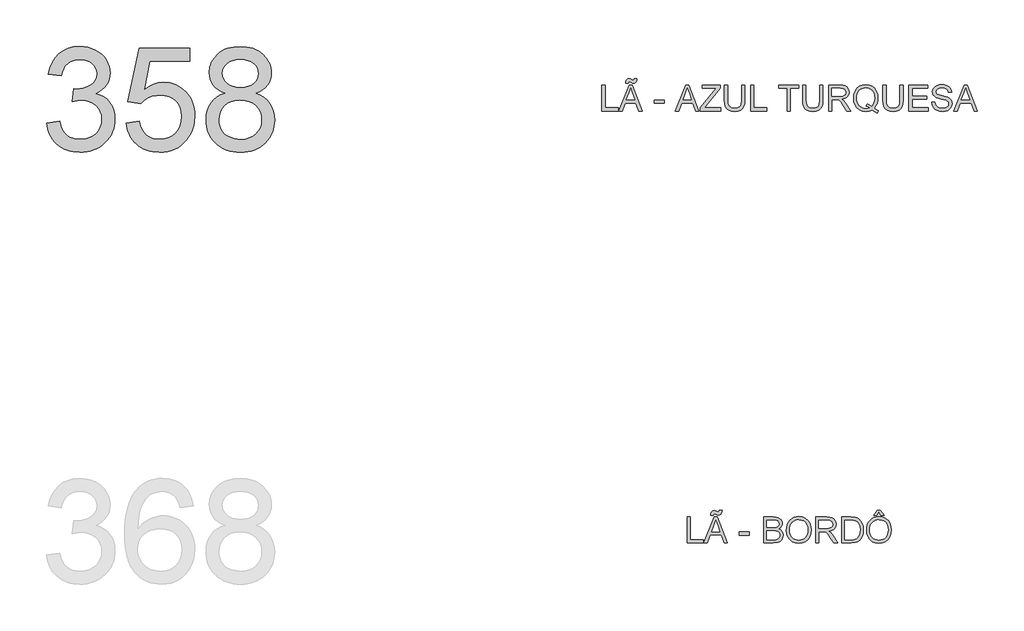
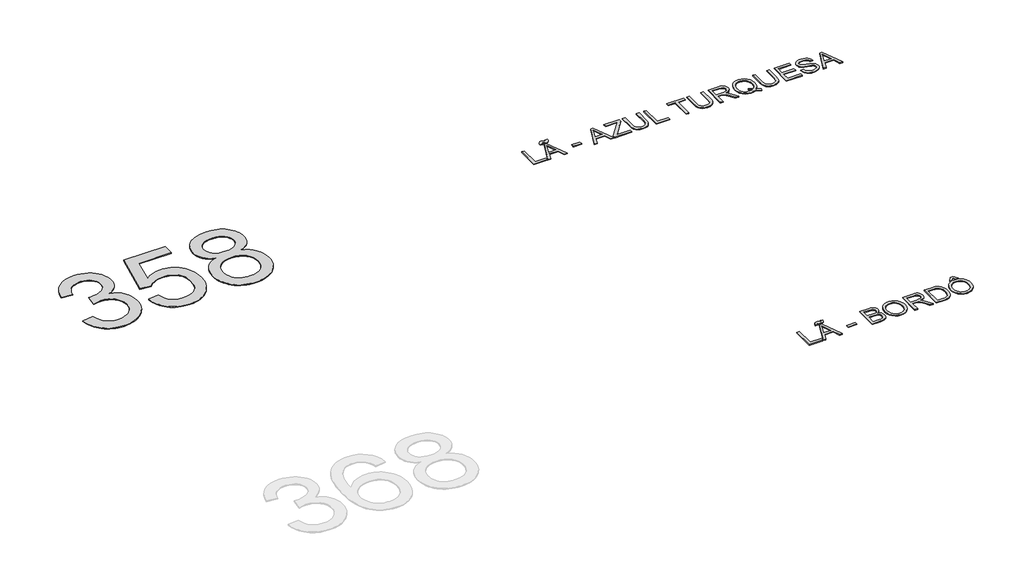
# One storey, part 2 of 67: 3 proxies.
"""IFC4 building model written with IfcOpenShell, lengths in millimetres."""

import ifcopenshell
import ifcopenshell.guid

model = None  # the IFC model being written
_history = None  # IfcOwnerHistory: only IFC2X3 demands one
_inside = {}  # id of a spatial element -> (the spatial element, [elements in it])
_under = {}  # id of a project, library or spatial element -> (it, [spatial elements below it])
_declared = {}  # id of a project -> (the project, [libraries it declares])
_typed = {}  # id of a type object -> (the type object, [elements of that type])
_made_of = {}  # id of a material, layer set ... -> (it, [elements and type objects made of it])


def new_model(schema):
    """Start an empty IFC model of exactly this schema.

    Asked for "IFC4X3", IfcOpenShell would pick the latest addendum, in which some entities
    have other attributes; the version numbers below select the first issue.
    IFC2X3 requires an IfcOwnerHistory on every rooted entity: one is made here for all.
    """
    global model, _history
    if schema == "IFC4X3":
        model = ifcopenshell.file(schema_version=(4, 3, 0, 0))
    else:
        model = ifcopenshell.file(schema=schema)
    _inside.clear()
    _under.clear()
    _declared.clear()
    _typed.clear()
    _made_of.clear()
    _history = None
    if model.schema == "IFC2X3":
        org = make("IfcOrganization", Name="unknown")
        user = make(
            "IfcPersonAndOrganization",
            ThePerson=make("IfcPerson", FamilyName="unknown"),
            TheOrganization=org,
        )
        app = make(
            "IfcApplication",
            ApplicationDeveloper=org,
            Version="unknown",
            ApplicationFullName="unknown",
            ApplicationIdentifier="unknown",
        )
        _history = make(
            "IfcOwnerHistory",
            OwningUser=user,
            OwningApplication=app,
            ChangeAction="ADDED",
            CreationDate=0,
        )
    return model


def make(cls, **values):
    """One entity of the class cls with the attributes given. An attribute that is None is left unset."""
    return model.create_entity(
        cls, **{name: value for name, value in values.items() if value is not None}
    )


def rooted(cls, **values):
    """An entity with a GlobalId (a new one), such as an element, a storey or a relation."""
    return make(cls, GlobalId=ifcopenshell.guid.new(), OwnerHistory=_history, **values)


def si_unit(unit_type, name, prefix=None):
    """IfcSIUnit, for example si_unit("LENGTHUNIT", "METRE", prefix="MILLI")."""
    return make("IfcSIUnit", UnitType=unit_type, Prefix=prefix, Name=name)


def assignment(units):
    """IfcUnitAssignment: the units of a project."""
    return None if units is None else make("IfcUnitAssignment", Units=units)


def point(xyz):
    """IfcCartesianPoint."""
    return None if xyz is None else make("IfcCartesianPoint", Coordinates=xyz)


def direction(xyz):
    """IfcDirection."""
    return None if xyz is None else make("IfcDirection", DirectionRatios=xyz)


def frame(location, z_axis=None, x_axis=None):
    """IfcAxis2Placement3D, a coordinate frame: its origin and axes. An axis left out is left unset."""
    return make(
        "IfcAxis2Placement3D",
        Location=point(location),
        Axis=direction(z_axis),
        RefDirection=direction(x_axis),
    )


def origin():
    """The frame at (0, 0, 0) with its axes left unset."""
    return frame((0.0, 0.0, 0.0))


def origin_with_axes():
    """The frame at (0, 0, 0) with the z axis (0, 0, 1) and the x axis (1, 0, 0) written out."""
    return frame((0.0, 0.0, 0.0), z_axis=(0.0, 0.0, 1.0), x_axis=(1.0, 0.0, 0.0))


def place(relative_to, where):
    """IfcLocalPlacement: puts the frame where relative to a parent placement (None: the world)."""
    return make(
        "IfcLocalPlacement", PlacementRelTo=relative_to, RelativePlacement=where
    )


def context(
    kind, dimensions, precision=None, world=None, true_north=None, identifier=None
):
    """IfcGeometricRepresentationContext, for example the 3D "Model" context."""
    return make(
        "IfcGeometricRepresentationContext",
        ContextIdentifier=identifier,
        ContextType=kind,
        CoordinateSpaceDimension=dimensions,
        Precision=precision,
        WorldCoordinateSystem=world,
        TrueNorth=true_north,
    )


def project(units=None, contexts=None):
    """IfcProject with its units and contexts."""
    return rooted(
        "IfcProject",
        Name="project",
        RepresentationContexts=contexts,
        UnitsInContext=assignment(units),
    )


def spatial(cls, under=None, at=None, **own):
    """A site, building, storey or space (cls), placed at a placement, below another one or the project."""
    s = rooted(cls, ObjectPlacement=at, **own)
    if under is not None:
        _under.setdefault(under.id(), (under, []))[1].append(s)
    return s


def polyline(points):
    """IfcPolyline through the points."""
    return make("IfcPolyline", Points=[point(p) for p in points])


def outline(outer, holes=None, kind="AREA"):
    """IfcArbitraryClosedProfileDef: a profile drawn as a closed curve; with holes, ...WithVoids."""
    if holes is None:
        return make("IfcArbitraryClosedProfileDef", ProfileType=kind, OuterCurve=outer)
    return make(
        "IfcArbitraryProfileDefWithVoids",
        ProfileType=kind,
        OuterCurve=outer,
        InnerCurves=holes,
    )


def extrude(swept, where, along, depth):
    """IfcExtrudedAreaSolid: the profile swept, set in the frame where, extruded along a direction by depth."""
    return make(
        "IfcExtrudedAreaSolid",
        SweptArea=swept,
        Position=where,
        ExtrudedDirection=direction(along),
        Depth=depth,
    )


def shape(context_of_items, identifier, shape_type, items):
    """IfcShapeRepresentation: the items that make up one representation, for example the "Body"."""
    return make(
        "IfcShapeRepresentation",
        ContextOfItems=context_of_items,
        RepresentationIdentifier=identifier,
        RepresentationType=shape_type,
        Items=items,
    )


def made_of(thing, what):
    """Note that an element or type object is made of a material, layer set ...; save() writes the relation."""
    if what is not None:
        _made_of.setdefault(what.id(), (what, []))[1].append(thing)
    return thing


def element(
    cls,
    number,
    at=None,
    inside=None,
    cuts=None,
    type_object=None,
    material=None,
    context=None,
    identifier="Body",
    shape_type=None,
    held_by="IfcProductDefinitionShape",
    body=None,
    shapes=None,
    **own,
):
    """One element of the class cls, such as IfcWall. Its Tag is "e" and its number.

    at: its placement. inside: the storey or other place that contains it. cuts: it is an
    opening in that element (IfcRelVoidsElement). A single representation is given by context,
    identifier, shape_type and body (its items); several are given by shapes. held_by: the class
    of the entity that holds the representations. save() writes the other relations.
    """
    e = rooted(cls, Tag="e%d" % number, ObjectPlacement=at, **own)
    if body is not None:
        shapes = [shape(context, identifier, shape_type, body)]
    if shapes is not None:
        e.Representation = make(held_by, Representations=shapes)
    if inside is not None:
        _inside.setdefault(inside.id(), (inside, []))[1].append(e)
    if cuts is not None:
        rooted(
            "IfcRelVoidsElement", RelatingBuildingElement=cuts, RelatedOpeningElement=e
        )
    if type_object is not None:
        _typed.setdefault(type_object.id(), (type_object, []))[1].append(e)
    return made_of(e, material)


def aggregate(whole, parts):
    """IfcRelAggregates: a whole, such as a stair, and the parts it consists of."""
    return rooted("IfcRelAggregates", RelatingObject=whole, RelatedObjects=parts)


def save(model, path):
    """Write the relations noted so far, then the file.

    IfcRelAggregates (storeys below a building ...), IfcRelContainedInSpatialStructure (elements
    in a storey), IfcRelDefinesByType, IfcRelAssociatesMaterial and IfcRelDeclares: one each for
    every whole, place, type object, material and project.
    """
    for whole, parts in _under.values():
        aggregate(whole, parts)
    for where, things in _inside.values():
        rooted(
            "IfcRelContainedInSpatialStructure",
            RelatedElements=things,
            RelatingStructure=where,
        )
    for kind, things in _typed.values():
        rooted("IfcRelDefinesByType", RelatedObjects=things, RelatingType=kind)
    for what, things in _made_of.values():
        rooted("IfcRelAssociatesMaterial", RelatedObjects=things, RelatingMaterial=what)
    for by, libraries in _declared.values():
        rooted("IfcRelDeclares", RelatingContext=by, RelatedDefinitions=libraries)
    model.write(path)


model = new_model("IFC4")

# Units and contexts
model_context = context("Model", 3, world=origin())
ifc_project = project(units=[si_unit("LENGTHUNIT", "METRE", prefix="MILLI")], contexts=[model_context])

# Site, building, storey
site = spatial("IfcSite", under=ifc_project)
building = spatial("IfcBuilding", under=site)
storey = spatial("IfcBuildingStorey", under=building, Name="Marelli - Linha COLAB - Planta Baixa", Elevation=0.0)

# Proxies
placement = place(None, origin())
element("IfcBuildingElementProxy", 1, Name="1200mm Arial", ObjectType="1200mm Arial", at=placement, inside=storey, context=model_context, shape_type="SweptSolid", body=[
    extrude(outline(polyline([(-25181.1313792, -125168.6139517), (-25030.446914, -125149.7783935), (-25015.5384961, -125200.9691731), (-24996.712135, -125244.4712191), (-24973.9678307, -125280.2845313), (-24947.3055831, -125308.4091098), (-24916.1183869, -125329.6542951), (-24879.799237, -125344.8294274), (-24838.3481331, -125353.9345067), (-24791.7650755, -125356.9695332), (-24737.1713874, -125352.7940725), (-24688.4638113, -125340.2676906), (-24645.642347, -125319.3903874), (-24608.7069947, -125290.1621629), (-24578.9637354, -125254.7719149), (-24557.7185502, -125215.4085414), (-24544.971439, -125172.0720424), (-24540.722402, -125124.7624178), (-24544.9346508, -125079.7060705), (-24557.5713974, -125038.7148192), (-24578.6326416, -125001.7886639), (-24608.1183835, -124968.9276047), (-24644.0972426, -124941.9526574), (-24684.6378385, -124922.6848379), (-24729.7401711, -124911.1241462), (-24779.4042405, -124907.2705823), (-24827.0081706, -124911.3908606), (-24885.0599495, -124923.7516957), (-24868.2845305, -124773.0672304), (-24844.1514716, -124774.833064), (-24797.8167343, -124772.1291314), (-24753.87323, -124764.0173334), (-24712.3209587, -124750.49767), (-24673.1599203, -124731.5701414), (-24639.9401761, -124707.0324123), (-24616.2117874, -124676.6821477), (-24601.9747542, -124640.5193476), (-24597.2290765, -124598.5440119), (-24600.6687731, -124564.4689421), (-24610.9878631, -124533.465687), (-24628.1863464, -124505.5342465), (-24652.2642229, -124480.6746207), (-24681.768359, -124460.266367), (-24715.2456205, -124445.6890429), (-24752.6960076, -124436.9426485), (-24794.1195203, -124434.0271837), (-24835.4326683, -124436.9702397), (-24873.1405728, -124445.7994075), (-24907.2432338, -124460.5146873), (-24937.7406512, -124481.1160791), (-24963.878667, -124507.6035827), (-24984.903123, -124539.9771983), (-25000.8140193, -124578.2369258), (-25011.6113558, -124622.3827652), (-25162.2958211, -124603.5472071), (-25144.4351502, -124531.6078829), (-25117.9292524, -124468.2402092), (-25082.7781278, -124413.4441861), (-25038.9817763, -124367.2198134), (-24987.9197553, -124330.5235844), (-24930.9716225, -124304.3119922), (-24868.1373777, -124288.5850369), (-24799.417021, -124283.3427185), (-24751.0865239, -124285.9270895), (-24704.6874073, -124293.6802025), (-24660.2196711, -124306.6020576), (-24617.6833154, -124324.6926547), (-24578.5590652, -124347.2622151), (-24544.3276456, -124373.6209601), (-24514.9890564, -124403.7688896), (-24490.5432979, -124437.7060036), (-24471.2938725, -124474.0803359), (-24457.5442829, -124511.5399201), (-24449.2945291, -124550.0847561), (-24446.5446112, -124589.7148441), (-24449.1565734, -124626.9812902), (-24456.9924599, -124662.5554791), (-24470.0522707, -124696.4374109), (-24488.3360059, -124728.6270854), (-24511.7333008, -124758.3703447), (-24540.1337908, -124784.9130307), (-24573.537476, -124808.2551433), (-24611.9443563, -124828.3966825), (-24561.7284639, -124844.1052437), (-24517.6194127, -124866.5092572), (-24479.6172026, -124895.608723), (-24447.7218336, -124931.4036412), (-24422.4851288, -124973.0110948), (-24404.458911, -125019.5481672), (-24393.6431803, -125071.0148583), (-24390.0379368, -125127.4111682), (-24391.8405586, -125166.3882656), (-24397.2484239, -125203.8570468), (-24406.2615328, -125239.8175118), (-24418.8798852, -125274.2696607), (-24435.1034812, -125307.2134933), (-24454.9323207, -125338.6490098), (-24478.3664038, -125368.5762101), (-24505.4057305, -125396.9950943), (-24535.1995735, -125422.9307749), (-24566.897206, -125445.4083648), (-24600.4986277, -125464.427864), (-24636.0038388, -125479.9892724), (-24673.4128391, -125492.09259), (-24712.7256288, -125500.7378169), (-24753.9422079, -125505.924953), (-24797.0625762, -125507.6539984), (-24873.2877256, -125501.7494924), (-24908.8619146, -125494.3688599), (-24942.7438463, -125484.0359743), (-24974.9335209, -125470.7508358), (-25005.4309383, -125454.5134442), (-25034.2360985, -125435.3237996), (-25061.3490016, -125413.1819021), (-25086.2040289, -125388.6947568), (-25108.2355619, -125362.469369), (-25127.4436005, -125334.5057389), (-25143.8281449, -125304.8038663), (-25157.3891949, -125273.3637513), (-25168.1267507, -125240.1853938), (-25181.1313792, -125168.6139517)])), origin_with_axes(), (0.0, 0.0, 1.0), 10.0),
    extrude(outline(polyline([(-24258.1890297, -125168.6139517), (-24107.5045645, -125149.7783935), (-24096.2473754, -125198.2192552), (-24079.8398384, -125240.2405761), (-24058.2819535, -125275.8423562), (-24031.5737207, -125305.0245955), (-23999.7703222, -125327.7505057), (-23962.9269404, -125343.9832988), (-23921.0435752, -125353.7229746), (-23874.1202267, -125356.9695332), (-23816.7306355, -125352.4537817), (-23766.110073, -125338.9065272), (-23722.2585391, -125316.3277698), (-23685.176034, -125284.7175093), (-23655.6902921, -125245.6392444), (-23634.6290479, -125200.6564734), (-23621.9923013, -125149.7691965), (-23617.7800525, -125092.9774135), (-23621.7255869, -125039.3034304), (-23633.5621901, -124991.5891356), (-23653.2898621, -124949.8345291), (-23680.9086029, -124914.039611), (-23716.510383, -124885.3264213), (-23760.1871728, -124864.817), (-23811.9389725, -124852.5113473), (-23871.765782, -124848.4094631), (-23910.0531006, -124850.0465379), (-23944.8639344, -124854.9577626), (-23976.1982834, -124863.143137), (-24004.0561474, -124874.6026611), (-24051.3289838, -124904.6954083), (-24088.6690063, -124942.5872538), (-24239.3534716, -124923.7516957), (-24107.5045645, -124302.1782766), (-23523.6022617, -124302.1782766), (-23523.6022617, -124452.8627418), (-23985.6620477, -124452.8627418), (-24050.1149732, -124784.8394543), (-23996.9376308, -124746.7268796), (-23942.4727014, -124719.503612), (-23886.7201851, -124703.1696514), (-23829.6800817, -124697.7249978), (-23792.2411909, -124699.4126565), (-23756.2968207, -124704.4756324), (-23721.8469711, -124712.9139257), (-23688.8916422, -124724.7275363), (-23657.4308338, -124739.9164642), (-23627.464546, -124758.4807093), (-23598.9927789, -124780.4202718), (-23572.0155323, -124805.7351516), (-23547.4249202, -124833.7033803), (-23526.1130564, -124863.6029895), (-23508.0799408, -124895.4339791), (-23493.3255735, -124929.1963492), (-23481.8499545, -124964.8900998), (-23473.6530838, -125002.5152308), (-23468.7349614, -125042.0717424), (-23467.0955873, -125083.5596344), (-23473.0000933, -125161.6241938), (-23480.3807258, -125198.6147284), (-23490.7136114, -125234.2440996), (-23503.9987499, -125268.5123075), (-23520.2361415, -125301.4193519), (-23539.4257861, -125332.965233), (-23561.5676836, -125363.1499507), (-23591.5684603, -125397.0180869), (-23624.1811992, -125426.3704716), (-23659.4059003, -125451.2071048), (-23697.2425635, -125471.5279865), (-23737.6911888, -125487.3331167), (-23780.7517764, -125498.6224954), (-23826.4243261, -125505.3961227), (-23874.7088379, -125507.6539984), (-23952.4698947, -125501.8506599), (-23988.529228, -125494.5964869), (-24022.7077646, -125484.4406445), (-24055.0055045, -125471.383133), (-24085.4224477, -125455.4239522), (-24113.9585942, -125436.5631021), (-24140.613944, -125414.8005828), (-24164.9516373, -125390.6422321), (-24186.5348141, -125364.5938875), (-24205.3634745, -125336.6555493), (-24221.4376184, -125306.8272173), (-24234.7572459, -125275.1088915), (-24245.3223569, -125241.500572), (-24258.1890297, -125168.6139517)])), origin_with_axes(), (0.0, 0.0, 1.0), 10.0),
    extrude(outline(polyline([(-23115.6947055, -124824.8650154), (-23159.0404016, -124806.7652212), (-23196.371227, -124785.1337599), (-23227.6871819, -124759.9706314), (-23252.9882661, -124731.2758358), (-23272.4952089, -124699.3252845), (-23286.4287394, -124664.3948891), (-23294.7888578, -124626.4846495), (-23297.5755639, -124585.5945657), (-23291.505511, -124524.1398784), (-23283.9179448, -124495.3301197), (-23273.2953522, -124467.7987509), (-23259.6377331, -124441.545772), (-23242.9450876, -124416.571183), (-23200.4547172, -124370.4571749), (-23175.1674285, -124350.0397242), (-23147.865986, -124332.3446002), (-23118.5503895, -124317.371803), (-23087.2206391, -124305.1213326), (-23018.5186765, -124288.787372), (-22941.7600982, -124283.3427185), (-22864.6336379, -124288.9161307), (-22795.4166405, -124305.6363674), (-22763.7741904, -124318.1765449), (-22734.109106, -124333.5034285), (-22706.4213873, -124351.6170182), (-22680.7110344, -124372.5173141), (-22637.4481118, -124419.5326331), (-22620.4519636, -124444.8613085), (-22606.5460242, -124471.4039944), (-22595.7302935, -124499.1606909), (-22588.0047716, -124528.1313981), (-22583.3694585, -124558.3161158), (-22581.8243541, -124589.7148441), (-22584.574272, -124629.160991), (-22592.8240257, -124665.9767817), (-22606.5736153, -124700.1622161), (-22625.8230407, -124731.7172942), (-22650.6642724, -124760.2189518), (-22681.189281, -124785.2441245), (-22717.3980664, -124806.7928124), (-22759.2906286, -124824.8650154), (-22709.764515, -124845.9354566), (-22666.5475776, -124872.6528865), (-22629.6398164, -124905.0173051), (-22599.0412315, -124943.0287122), (-22575.0277342, -124985.8409794), (-22557.8752362, -125032.607978), (-22547.5837374, -125083.3297081), (-22544.1532378, -125138.0061697), (-22545.854692, -125176.3670647), (-22550.9590547, -125213.1644613), (-22559.4663258, -125248.3983594), (-22571.3765054, -125282.068759), (-22586.6895935, -125314.1756601), (-22605.40559, -125344.7190628), (-22627.5244949, -125373.6989669), (-22653.0463083, -125401.1153726), (-22681.3456308, -125426.085363), (-22711.797063, -125447.7260214), (-22744.4006048, -125466.0373477), (-22779.1562563, -125481.019342), (-22816.0640175, -125492.6720042), (-22855.1238883, -125500.9953343), (-22896.3358688, -125505.9893324), (-22939.699959, -125507.6539984), (-22983.0640492, -125505.9824346), (-23024.2760297, -125500.9677432), (-23063.3359005, -125492.6099241), (-23100.2436617, -125480.9089774), (-23134.9993132, -125465.864903), (-23167.602855, -125447.4777011), (-23198.0542872, -125425.7473715), (-23226.3536096, -125400.6739142), (-23251.875423, -125373.1034579), (-23273.994328, -125343.8821312), (-23292.7103245, -125313.009934), (-23308.0234126, -125280.4868664), (-23319.9335922, -125246.3129283), (-23328.4408633, -125210.4881198), (-23333.545226, -125173.0124408), (-23335.2466802, -125133.8858913), (-23331.6782249, -125076.7170293), (-23320.9728588, -125024.4042096), (-23303.130582, -124976.9474322), (-23278.1513946, -124934.3466971), (-23246.5871194, -124897.3745566), (-23208.9895795, -124866.8035628), (-23165.3587748, -124842.6337157), (-23115.6947055, -124824.8650154)]), holes=[polyline([(-23146.8910987, -124590.0091496), (-23143.5525696, -124624.553269), (-23133.5369822, -124655.7864504), (-23116.8443367, -124683.7086938), (-23093.474633, -124708.3199993), (-23063.7221766, -124728.4063562), (-23027.8812732, -124742.753754), (-22985.9519228, -124751.3621927), (-22937.9341254, -124754.2316723), (-22891.1027474, -124751.3805868), (-22850.083905, -124742.8273304), (-22814.877598, -124728.5719031), (-22785.4838266, -124708.6143049), (-22762.3072609, -124684.5180342), (-22745.7525711, -124657.8465896), (-22735.8197573, -124628.5999709), (-22732.5088193, -124596.7781784), (-22735.9301219, -124563.714784), (-22746.1940295, -124533.3921106), (-22763.3005423, -124505.810158), (-22787.2496602, -124480.9689263), (-22817.3056192, -124460.4319139), (-22852.7326553, -124445.7626193), (-22893.5307686, -124436.9610426), (-22939.699959, -124434.0271837), (-22986.2278343, -124436.8966633), (-23027.2190856, -124445.5051019), (-23062.6737129, -124459.8524998), (-23092.5917162, -124479.9388567), (-23116.347696, -124504.0351274), (-23133.3162531, -124530.4122664), (-23143.4973873, -124559.0702739), (-23146.8910987, -124590.0091496)]), polyline([(-23184.562215, -125128.5883906), (-23182.9895195, -125157.6418712), (-23178.2714329, -125186.2354992), (-23159.3990865, -125242.0431979), (-23144.3986982, -125267.9328933), (-23124.5606616, -125290.7139859), (-23099.8849767, -125310.3864756), (-23070.3716437, -125326.9503624), (-23038.1819691, -125340.0837496), (-23005.4772597, -125349.4647405), (-22972.2575156, -125355.093335), (-22938.5227366, -125356.9695332), (-22884.0394131, -125353.0239988), (-22835.9572364, -125341.1873956), (-22794.2762063, -125321.4597236), (-22758.996323, -125293.8409828), (-22730.9269267, -125260.133795), (-22710.877358, -125222.140782), (-22698.8476167, -125179.8619437), (-22694.837703, -125133.2972801), (-22698.9763754, -125085.9876555), (-22711.3923928, -125042.9454621), (-22732.085755, -125004.1706998), (-22761.0564621, -124969.6633687), (-22797.2928387, -124941.336455), (-22839.7832091, -124921.1029453), (-22888.5275735, -124908.9628395), (-22943.5259317, -124904.9161375), (-22997.2091119, -124908.9076572), (-23044.6566922, -124920.8822161), (-23085.8686727, -124940.8398143), (-23120.8450534, -124968.7804519), (-23148.7213116, -125002.7175659), (-23168.6329246, -125040.6645937), (-23180.5798924, -125082.6215353), (-23184.562215, -125128.5883906)])]), origin_with_axes(), (0.0, 0.0, 1.0), 10.0),
])
element("IfcBuildingElementProxy", 2, Name="300mm Arial", ObjectType="300mm Arial", at=placement, inside=storey, context=model_context, shape_type="SweptSolid", body=[
    extrude(outline(polyline([(-18757.1126387, -125030.5663201), (-18757.1126387, -124729.1973896), (-18719.4415224, -124729.1973896), (-18719.4415224, -124992.8952038), (-18568.7570572, -124992.8952038), (-18568.7570572, -125030.5663201), (-18757.1126387, -125030.5663201)])), origin_with_axes(), (0.0, 0.0, 1.0), 10.0),
    extrude(outline(polyline([(-18483.9970455, -124710.3618315), (-18481.14596, -124687.2036599), (-18472.298398, -124669.2326244), (-18458.9626757, -124657.6995239), (-18442.3528036, -124653.855157), (-18428.4468642, -124656.8901835), (-18412.18648, -124665.9952628), (-18396.9561654, -124672.6907152), (-18388.9731261, -124668.9015306), (-18385.1103652, -124653.855157), (-18352.1481384, -124653.855157), (-18355.4314852, -124678.5768271), (-18364.1043032, -124696.2351629), (-18377.0077642, -124706.8301643), (-18392.9830399, -124710.3618315), (-18406.9809498, -124707.4923519), (-18422.7814815, -124698.8839132), (-18438.6739837, -124691.5262733), (-18447.6503044, -124696.3087393), (-18451.0348187, -124710.3618315), (-18483.9970455, -124710.3618315)])), origin_with_axes(), (0.0, 0.0, 1.0), 10.0),
    extrude(outline(polyline([(-18561.4729937, -125030.5663201), (-18441.1755812, -124729.1973896), (-18409.0962713, -124729.1973896), (-18288.7988588, -125030.5663201), (-18328.6036907, -125030.5663201), (-18363.1110219, -124936.3885293), (-18487.234407, -124936.3885293), (-18521.6681618, -125030.5663201), (-18561.4729937, -125030.5663201)]), holes=[polyline([(-18473.402044, -124898.717413), (-18376.8698085, -124898.717413), (-18404.0194997, -124824.6259792), (-18425.1359262, -124766.8685059), (-18443.897908, -124818.1512561), (-18473.402044, -124898.717413)])]), origin_with_axes(), (0.0, 0.0, 1.0), 10.0),
    extrude(outline(polyline([(-18154.3747778, -124941.0974188), (-18154.3747778, -124903.4263025), (-18036.6525393, -124903.4263025), (-18036.6525393, -124941.0974188), (-18154.3747778, -124941.0974188)])), origin_with_axes(), (0.0, 0.0, 1.0), 10.0),
    extrude(outline(polyline([(-17906.9373478, -125030.5663201), (-17786.6399354, -124729.1973896), (-17754.5606254, -124729.1973896), (-17634.263213, -125030.5663201), (-17674.0680449, -125030.5663201), (-17708.575376, -124936.3885293), (-17832.6987612, -124936.3885293), (-17867.132516, -125030.5663201), (-17906.9373478, -125030.5663201)]), holes=[polyline([(-17818.8663982, -124898.717413), (-17722.3341627, -124898.717413), (-17749.4838539, -124824.6259792), (-17770.6002804, -124766.8685059), (-17789.3622622, -124818.1512561), (-17818.8663982, -124898.717413)])]), origin_with_axes(), (0.0, 0.0, 1.0), 10.0),
    extrude(outline(polyline([(-17617.5613704, -125030.5663201), (-17617.5613704, -124991.4972522), (-17463.4188145, -124802.7737887), (-17434.1354076, -124766.8685059), (-17598.7258123, -124766.8685059), (-17598.7258123, -124729.1973896), (-17386.8257831, -124729.1973896), (-17386.8257831, -124766.8685059), (-17555.5364661, -124973.397458), (-17571.4289682, -124992.8952038), (-17382.1168935, -124992.8952038), (-17382.1168935, -125030.5663201), (-17617.5613704, -125030.5663201)])), origin_with_axes(), (0.0, 0.0, 1.0), 10.0),
    extrude(outline(polyline([(-17141.9635271, -124729.1973896), (-17104.2924108, -124729.1973896), (-17104.2924108, -124903.0584205), (-17106.8491906, -124943.7737604), (-17114.5195302, -124975.1265034), (-17128.8485339, -124999.3147446), (-17151.3813061, -125018.5365788), (-17182.1730291, -125031.0905519), (-17221.2788852, -125035.2752096), (-17259.5294157, -125031.6331779), (-17290.1096065, -125020.7070826), (-17313.0286548, -125002.8740029), (-17328.2957576, -124978.5110178), (-17336.8766052, -124945.8338995), (-17339.7368877, -124903.0584205), (-17339.7368877, -124729.1973896), (-17302.0657714, -124729.1973896), (-17302.0657714, -124901.7340454), (-17300.2079673, -124935.588386), (-17294.6345551, -124959.1604248), (-17284.5361943, -124975.4851883), (-17269.1035446, -124987.597703), (-17248.9803995, -124995.1024957), (-17224.8105524, -124997.6040933), (-17186.4956426, -124992.6560805), (-17172.1528433, -124986.4710644), (-17161.0198144, -124977.812042), (-17152.6826887, -124965.6351479), (-17146.7275989, -124948.8965171), (-17141.9635271, -124901.7340454), (-17141.9635271, -124729.1973896)])), origin_with_axes(), (0.0, 0.0, 1.0), 10.0),
    extrude(outline(polyline([(-17038.3679572, -125030.5663201), (-17038.3679572, -124729.1973896), (-17000.6968409, -124729.1973896), (-17000.6968409, -124992.8952038), (-16850.0123757, -124992.8952038), (-16850.0123757, -125030.5663201), (-17038.3679572, -125030.5663201)])), origin_with_axes(), (0.0, 0.0, 1.0), 10.0),
    extrude(outline(polyline([(-16614.5678988, -125030.5663201), (-16614.5678988, -124766.8685059), (-16713.4545791, -124766.8685059), (-16713.4545791, -124729.1973896), (-16478.0101022, -124729.1973896), (-16478.0101022, -124766.8685059), (-16576.8967825, -124766.8685059), (-16576.8967825, -125030.5663201), (-16614.5678988, -125030.5663201)])), origin_with_axes(), (0.0, 0.0, 1.0), 10.0),
    extrude(outline(polyline([(-16237.8567357, -124729.1973896), (-16200.1856194, -124729.1973896), (-16200.1856194, -124903.0584205), (-16202.7423993, -124943.7737604), (-16210.4127389, -124975.1265034), (-16224.7417426, -124999.3147446), (-16247.2745148, -125018.5365788), (-16278.0662378, -125031.0905519), (-16317.1720939, -125035.2752096), (-16355.4226243, -125031.6331779), (-16386.0028152, -125020.7070826), (-16408.9218635, -125002.8740029), (-16424.1889663, -124978.5110178), (-16432.7698138, -124945.8338995), (-16435.6300963, -124903.0584205), (-16435.6300963, -124729.1973896), (-16397.95898, -124729.1973896), (-16397.95898, -124901.7340454), (-16396.101176, -124935.588386), (-16390.5277637, -124959.1604248), (-16380.429403, -124975.4851883), (-16364.9967533, -124987.597703), (-16344.8736081, -124995.1024957), (-16320.703761, -124997.6040933), (-16282.3888512, -124992.6560805), (-16268.046052, -124986.4710644), (-16256.9130231, -124977.812042), (-16248.5758974, -124965.6351479), (-16242.6208076, -124948.8965171), (-16237.8567357, -124901.7340454), (-16237.8567357, -124729.1973896)])), origin_with_axes(), (0.0, 0.0, 1.0), 10.0),
    extrude(outline(polyline([(-16134.2611659, -125030.5663201), (-16134.2611659, -124729.1973896), (-16004.3988216, -124729.1973896), (-15969.4960173, -124731.2299376), (-15944.1029626, -124737.3275817), (-15925.5433159, -124748.5847708), (-15911.1407358, -124766.0959537), (-15901.8977007, -124787.8101885), (-15898.816689, -124811.6765329), (-15903.9210517, -124841.3646099), (-15919.2341397, -124865.9759154), (-15930.8339189, -124876.0052983), (-15945.2158056, -124884.0205273), (-15982.3259019, -124894.0085235), (-15960.9151698, -124910.1217548), (-15930.3809642, -124948.8965171), (-15880.1282836, -125030.5663201), (-15923.906241, -125030.5663201), (-15963.1224617, -124968.0999573), (-15991.4493754, -124926.750021), (-16011.3517913, -124907.2154871), (-16029.2676445, -124900.0417882), (-16051.119835, -124898.717413), (-16096.5900496, -124898.717413), (-16096.5900496, -125030.5663201), (-16134.2611659, -125030.5663201)]), holes=[polyline([(-16096.5900496, -124861.0462967), (-16012.2714963, -124861.0462967), (-15988.055664, -124859.7127245), (-15969.266091, -124855.7120078), (-15955.1210283, -124848.7774322), (-15944.8387266, -124838.6422832), (-15938.5755356, -124826.3826157), (-15936.4878053, -124813.0744845), (-15940.4701279, -124794.6987789), (-15952.4170957, -124779.8915286), (-15972.9725021, -124770.1242616), (-16002.7801408, -124766.8685059), (-16096.5900496, -124766.8685059), (-16096.5900496, -124861.0462967)])]), origin_with_axes(), (0.0, 0.0, 1.0), 10.0),
    extrude(outline(polyline([(-15606.4976556, -124994.4403081), (-15582.1622616, -125013.036743), (-15559.7766422, -125025.8574305), (-15569.9301853, -125053.4485802), (-15600.9978198, -125039.0460001), (-15631.9550897, -125018.205485), (-15666.8119087, -125031.0077785), (-15705.1636067, -125035.2752096), (-15743.6992457, -125030.3547879), (-15778.5192765, -125015.5935229), (-15807.6831217, -124991.9203165), (-15829.2502037, -124960.2640708), (-15842.576729, -124922.3630282), (-15847.0189041, -124879.9554312), (-15842.585926, -124837.511046), (-15829.2869919, -124799.0581805), (-15807.8026834, -124766.9512794), (-15778.8135821, -124743.5447874), (-15744.12231, -124729.2525719), (-15705.5314887, -124724.4885001), (-15666.6371648, -124729.3629365), (-15631.7711487, -124743.9862458), (-15602.8280327, -124767.3835407), (-15581.7024091, -124798.5799339), (-15568.7897511, -124835.9199564), (-15564.4855318, -124877.7481393), (-15567.0974939, -124912.5313819), (-15574.9333804, -124943.5990164), (-15588.0483735, -124970.9142546), (-15606.4976556, -124994.4403081)]), holes=[polyline([(-15694.7893344, -124944.3347804), (-15663.1146947, -124956.3093393), (-15637.546896, -124972.9559996), (-15622.0636625, -124955.4816049), (-15611.00421, -124934.1076609), (-15604.3685386, -124908.8341679), (-15602.1566481, -124879.6611256), (-15605.283645, -124846.5057608), (-15614.6646359, -124817.8201623), (-15630.0696944, -124794.3308969), (-15651.2688944, -124776.7645316), (-15676.827496, -124765.8108452), (-15705.3107595, -124762.1596164), (-15726.795068, -124764.0059242), (-15746.3663902, -124769.5448474), (-15764.0247259, -124778.7763863), (-15779.7700753, -124791.7005406), (-15792.7103245, -124808.2897193), (-15801.9533596, -124828.5163313), (-15807.4991807, -124852.3803764), (-15809.3477877, -124879.8818548), (-15807.5198741, -124906.6659634), (-15802.0361331, -124930.1437324), (-15792.8965648, -124950.3151621), (-15780.1011691, -124967.1802523), (-15764.4638851, -124980.4906827), (-15746.7986515, -124989.998133), (-15727.1054685, -124995.7026032), (-15705.3843359, -124997.6040933), (-15684.4702445, -124995.6727128), (-15664.84374, -124989.8785714), (-15684.1391507, -124979.853787), (-15704.5014191, -124973.1767288), (-15694.7893344, -124944.3347804)])]), origin_with_axes(), (0.0, 0.0, 1.0), 10.0),
    extrude(outline(polyline([(-15310.2054967, -124729.1973896), (-15272.5343804, -124729.1973896), (-15272.5343804, -124903.0584205), (-15275.0911602, -124943.7737604), (-15282.7614998, -124975.1265034), (-15297.0905036, -124999.3147446), (-15319.6232758, -125018.5365788), (-15350.4149988, -125031.0905519), (-15389.5208548, -125035.2752096), (-15427.7713853, -125031.6331779), (-15458.3515761, -125020.7070826), (-15481.2706244, -125002.8740029), (-15496.5377272, -124978.5110178), (-15505.1185748, -124945.8338995), (-15507.9788573, -124903.0584205), (-15507.9788573, -124729.1973896), (-15470.307741, -124729.1973896), (-15470.307741, -124901.7340454), (-15468.4499369, -124935.588386), (-15462.8765247, -124959.1604248), (-15452.7781639, -124975.4851883), (-15437.3455142, -124987.597703), (-15417.2223691, -124995.1024957), (-15393.052522, -124997.6040933), (-15354.7376122, -124992.6560805), (-15340.3948129, -124986.4710644), (-15329.261784, -124977.812042), (-15320.9246583, -124965.6351479), (-15314.9695685, -124948.8965171), (-15310.2054967, -124901.7340454), (-15310.2054967, -124729.1973896)])), origin_with_axes(), (0.0, 0.0, 1.0), 10.0),
    extrude(outline(polyline([(-15206.6099268, -125030.5663201), (-15206.6099268, -124729.1973896), (-14990.0010081, -124729.1973896), (-14990.0010081, -124766.8685059), (-15168.9388105, -124766.8685059), (-15168.9388105, -124856.3374072), (-14999.4187872, -124856.3374072), (-14999.4187872, -124894.0085235), (-15168.9388105, -124894.0085235), (-15168.9388105, -124992.8952038), (-14985.2921185, -124992.8952038), (-14985.2921185, -125030.5663201), (-15206.6099268, -125030.5663201)])), origin_with_axes(), (0.0, 0.0, 1.0), 10.0),
    extrude(outline(polyline([(-14942.9121127, -124926.9707502), (-14905.2409964, -124926.9707502), (-14900.918383, -124947.8756446), (-14893.1008906, -124964.6786547), (-14880.9056024, -124978.0143771), (-14863.4496017, -124988.517408), (-14842.112446, -124995.332422), (-14818.2736927, -124997.6040933), (-14797.2860249, -124995.884245), (-14778.9103193, -124990.7247), (-14764.0202955, -124982.5577197), (-14753.4896734, -124971.8155654), (-14747.2264824, -124959.4823216), (-14745.1387521, -124946.5420724), (-14746.7022506, -124933.932917), (-14751.392746, -124923.0344129), (-14760.9208897, -124913.7361954), (-14776.9973329, -124905.9279001), (-14831.8485384, -124891.5437141), (-14867.8549886, -124882.0247675), (-14890.8935986, -124872.9656733), (-14909.6463833, -124860.2921386), (-14922.9361204, -124844.9330653), (-14930.8547803, -124827.2195472), (-14933.4943336, -124807.4826782), (-14930.2293809, -124785.4189555), (-14920.4345228, -124764.845155), (-14904.3672767, -124747.4075484), (-14882.2851599, -124734.7524077), (-14855.7792621, -124727.054477), (-14826.440673, -124724.4885001), (-14794.6556686, -124727.1740386), (-14766.8437898, -124735.2306543), (-14743.9983179, -124748.4928003), (-14727.1125343, -124766.7949295), (-14716.4255624, -124788.9966079), (-14712.1765253, -124813.9574013), (-14749.8476416, -124813.9574013), (-14756.7638231, -124791.4798114), (-14771.1847974, -124775.2562154), (-14793.7175696, -124765.4337661), (-14824.9691451, -124762.1596164), (-14856.9564845, -124765.3969779), (-14878.9006455, -124775.1090626), (-14891.5925744, -124789.4012781), (-14895.8232173, -124806.3790322), (-14892.8249791, -124820.8551887), (-14883.8302643, -124832.4986539), (-14862.566685, -124842.9097143), (-14822.3203947, -124853.541504), (-14780.7865174, -124863.6398648), (-14755.6601772, -124872.4506385), (-14734.1850657, -124886.1174547), (-14719.2030714, -124902.9848441), (-14710.4014947, -124922.868866), (-14707.4676358, -124945.5855792), (-14710.8429531, -124968.8081301), (-14720.968905, -124990.6511236), (-14737.4316243, -125009.4498935), (-14759.8172437, -125023.539774), (-14786.7370087, -125032.3413507), (-14816.8021648, -125035.2752096), (-14853.7099259, -125032.1114244), (-14884.0877817, -125022.620069), (-14908.2852199, -125006.764355), (-14926.6517285, -124984.5074943), (-14938.4423465, -124957.3945912), (-14942.9121127, -124926.9707502)])), origin_with_axes(), (0.0, 0.0, 1.0), 10.0),
    extrude(outline(polyline([(-14686.0569037, -125030.5663201), (-14565.7594912, -124729.1973896), (-14533.6801813, -124729.1973896), (-14413.3827688, -125030.5663201), (-14453.1876007, -125030.5663201), (-14487.6949319, -124936.3885293), (-14611.818317, -124936.3885293), (-14646.2520718, -125030.5663201), (-14686.0569037, -125030.5663201)]), holes=[polyline([(-14597.985954, -124898.717413), (-14501.4537185, -124898.717413), (-14528.6034097, -124824.6259792), (-14549.7198363, -124766.8685059), (-14568.481818, -124818.1512561), (-14597.985954, -124898.717413)])]), origin_with_axes(), (0.0, 0.0, 1.0), 10.0),
])
element("IfcBuildingElementProxy", 3, Name="300mm Arial", ObjectType="300mm Arial", at=placement, inside=storey, context=model_context, shape_type="SweptSolid", body=[
    extrude(outline(polyline([(-17772.9547252, -130030.5663201), (-17772.9547252, -129729.1973896), (-17735.2836089, -129729.1973896), (-17735.2836089, -129992.8952038), (-17584.5991437, -129992.8952038), (-17584.5991437, -130030.5663201), (-17772.9547252, -130030.5663201)])), origin_with_axes(), (0.0, 0.0, 1.0), 10.0),
    extrude(outline(polyline([(-17499.839132, -129710.3618315), (-17496.9880465, -129687.2036599), (-17488.1404845, -129669.2326244), (-17474.8047622, -129657.6995239), (-17458.1948901, -129653.855157), (-17444.2889507, -129656.8901835), (-17428.0285665, -129665.9952628), (-17412.7982519, -129672.6907152), (-17404.8152126, -129668.9015306), (-17400.9524517, -129653.855157), (-17367.9902249, -129653.855157), (-17371.2735717, -129678.5768271), (-17379.9463898, -129696.2351629), (-17392.8498507, -129706.8301643), (-17408.8251264, -129710.3618315), (-17422.8230363, -129707.4923519), (-17438.623568, -129698.8839132), (-17454.5160702, -129691.5262733), (-17463.4923909, -129696.3087393), (-17466.8769052, -129710.3618315), (-17499.839132, -129710.3618315)])), origin_with_axes(), (0.0, 0.0, 1.0), 10.0),
    extrude(outline(polyline([(-17577.3150802, -130030.5663201), (-17457.0176677, -129729.1973896), (-17424.9383578, -129729.1973896), (-17304.6409453, -130030.5663201), (-17344.4457772, -130030.5663201), (-17378.9531084, -129936.3885293), (-17503.0764935, -129936.3885293), (-17537.5102483, -130030.5663201), (-17577.3150802, -130030.5663201)]), holes=[polyline([(-17489.2441305, -129898.717413), (-17392.711895, -129898.717413), (-17419.8615862, -129824.6259792), (-17440.9780128, -129766.8685059), (-17459.7399945, -129818.1512561), (-17489.2441305, -129898.717413)])]), origin_with_axes(), (0.0, 0.0, 1.0), 10.0),
    extrude(outline(polyline([(-17170.2168643, -129941.0974188), (-17170.2168643, -129903.4263025), (-17052.4946258, -129903.4263025), (-17052.4946258, -129941.0974188), (-17170.2168643, -129941.0974188)])), origin_with_axes(), (0.0, 0.0, 1.0), 10.0),
    extrude(outline(polyline([(-16887.683492, -130030.5663201), (-16887.683492, -129729.1973896), (-16772.6835803, -129729.1973896), (-16741.0549258, -129731.4138786), (-16716.3608469, -129738.0633457), (-16697.4333182, -129749.3113377), (-16683.1043145, -129765.3234015), (-16674.0820086, -129784.1589597), (-16671.0745732, -129803.8774346), (-16673.603762, -129822.0232141), (-16681.1913281, -129839.0837416), (-16693.892454, -129854.0105535), (-16711.7623219, -129865.7551862), (-16690.4159691, -129876.9020107), (-16674.6430286, -129893.8613707), (-16664.9033528, -129915.5112261), (-16661.6567942, -129940.7295368), (-16663.8732832, -129961.7447958), (-16670.5227503, -129981.2333445), (-16680.4463671, -129997.8064284), (-16692.4853054, -130010.0752929), (-16707.2281763, -130018.9596431), (-16725.2635911, -130025.3791839), (-16773.5664971, -130030.5663201), (-16887.683492, -130030.5663201)]), holes=[polyline([(-16850.0123757, -129851.6285176), (-16781.2184426, -129851.6285176), (-16741.0457287, -129848.3911561), (-16726.9834395, -129842.8085468), (-16716.8758816, -129834.4484284), (-16710.7782376, -129823.4395597), (-16708.7456896, -129809.9106994), (-16710.6402818, -129796.7773121), (-16716.3240587, -129785.3361821), (-16725.5395026, -129776.4058467), (-16738.0290964, -129770.8048433), (-16786.4423669, -129766.8685059), (-16850.0123757, -129766.8685059), (-16850.0123757, -129851.6285176)]), polyline([(-16850.0123757, -129992.8952038), (-16772.7571567, -129992.8952038), (-16744.7981251, -129991.4236758), (-16721.1433128, -129983.2199073), (-16705.4715398, -129966.4812765), (-16700.8638178, -129954.6538704), (-16699.3279105, -129941.0974188), (-16701.1305323, -129925.3520694), (-16706.5383976, -129911.814012), (-16715.9837678, -129901.2282076), (-16729.8989043, -129894.3396173), (-16749.6081822, -129890.5596298), (-16776.4359767, -129889.2996339), (-16850.0123757, -129889.2996339), (-16850.0123757, -129992.8952038)])]), origin_with_axes(), (0.0, 0.0, 1.0), 10.0),
    extrude(outline(polyline([(-16623.9856779, -129883.8549804), (-16621.4748832, -129848.5061192), (-16613.9424994, -129817.213157), (-16601.3885263, -129789.9760937), (-16583.812964, -129766.7949295), (-16562.2688746, -129748.2858666), (-16537.8093205, -129735.0651074), (-16510.4343015, -129727.1326519), (-16480.1438177, -129724.4885001), (-16440.6148974, -129729.454907), (-16405.1694671, -129744.3541278), (-16375.7389075, -129768.1376988), (-16354.254599, -129799.7571563), (-16341.1212118, -129837.68579), (-16336.743416, -129880.3968896), (-16341.351138, -129923.6782064), (-16355.174304, -129962.140269), (-16377.4495588, -129993.8149087), (-16407.4135473, -130016.733957), (-16442.5554749, -130030.6398965), (-16480.3645469, -130035.2752096), (-16520.5004726, -130030.1524528), (-16556.148238, -130014.7841825), (-16585.5052212, -129990.5591531), (-16606.7688005, -129958.8661192), (-16619.6814585, -129922.3998164), (-16623.9856779, -129883.8549804)]), holes=[polyline([(-16586.3145616, -129884.2228624), (-16584.4314656, -129909.1974513), (-16578.7821777, -129931.3669401), (-16569.3666979, -129950.7313286), (-16556.1850262, -129967.2906169), (-16540.161466, -129980.5527628), (-16522.2203209, -129990.0257242), (-16502.361591, -129995.709501), (-16480.5852761, -129997.6040933), (-16458.4364808, -129995.6911069), (-16438.343226, -129989.9521478), (-16420.305512, -129980.3872159), (-16404.3233385, -129966.9963113), (-16391.2382358, -129950.0875351), (-16381.8917339, -129929.9689885), (-16376.2838327, -129906.6406715), (-16374.4145323, -129880.102584), (-16377.6151057, -129846.7540812), (-16387.2168258, -129817.9305269), (-16402.9713722, -129794.358488), (-16424.6304247, -129776.7645316), (-16450.7592434, -129765.8108452), (-16479.9230886, -129762.1596164), (-16500.9429461, -129763.9185522), (-16520.4452903, -129769.1953595), (-16538.4301214, -129777.9900385), (-16554.8974392, -129790.302589), (-16568.6424302, -129806.7262208), (-16578.460281, -129827.8541437), (-16584.3509914, -129853.6863575), (-16586.3145616, -129884.2228624)])]), origin_with_axes(), (0.0, 0.0, 1.0), 10.0),
    extrude(outline(polyline([(-16284.9456311, -130030.5663201), (-16284.9456311, -129729.1973896), (-16155.0832868, -129729.1973896), (-16120.1804825, -129731.2299376), (-16094.7874278, -129737.3275817), (-16076.2277811, -129748.5847708), (-16061.825201, -129766.0959537), (-16052.5821659, -129787.8101885), (-16049.5011542, -129811.6765329), (-16054.6055169, -129841.3646099), (-16069.9186049, -129865.9759154), (-16081.5183841, -129876.0052983), (-16095.9002708, -129884.0205273), (-16133.0103671, -129894.0085235), (-16111.599635, -129910.1217548), (-16081.0654294, -129948.8965171), (-16030.8127488, -130030.5663201), (-16074.5907063, -130030.5663201), (-16113.806927, -129968.0999573), (-16142.1338406, -129926.750021), (-16162.0362565, -129907.2154871), (-16179.9521097, -129900.0417882), (-16201.8043002, -129898.717413), (-16247.2745148, -129898.717413), (-16247.2745148, -130030.5663201), (-16284.9456311, -130030.5663201)]), holes=[polyline([(-16247.2745148, -129861.0462967), (-16162.9559615, -129861.0462967), (-16138.7401292, -129859.7127245), (-16119.9505563, -129855.7120078), (-16105.8054936, -129848.7774322), (-16095.5231918, -129838.6422832), (-16089.2600008, -129826.3826157), (-16087.1722705, -129813.0744845), (-16091.1545931, -129794.6987789), (-16103.1015609, -129779.8915286), (-16123.6569674, -129770.1242616), (-16153.464606, -129766.8685059), (-16247.2745148, -129766.8685059), (-16247.2745148, -129861.0462967)])]), origin_with_axes(), (0.0, 0.0, 1.0), 10.0),
    extrude(outline(polyline([(-15983.5767007, -130030.5663201), (-15983.5767007, -129729.1973896), (-15879.6132488, -129729.1973896), (-15825.8289011, -129733.5383972), (-15801.8062068, -129741.9077126), (-15781.5359089, -129755.0962821), (-15760.6953939, -129778.0521186), (-15745.8513554, -129806.5997614), (-15736.9670052, -129840.1873876), (-15734.0055551, -129878.2631741), (-15736.010512, -129910.6091985), (-15742.0253826, -129939.0740679), (-15751.1856443, -129963.3082943), (-15762.6267744, -129982.9623899), (-15775.7969498, -129998.477813), (-15790.1443476, -130010.2960221), (-15806.6162639, -130019.0608107), (-15826.1599949, -130025.4159721), (-15874.6100537, -130030.5663201), (-15983.5767007, -130030.5663201)]), holes=[polyline([(-15945.9055844, -129992.8952038), (-15879.2453668, -129992.8952038), (-15851.6726113, -129991.5340404), (-15830.7585199, -129987.4505502), (-15814.9763823, -129980.8838566), (-15802.7994882, -129972.0730828), (-15789.7120863, -129955.7667134), (-15779.8804399, -129934.6594839), (-15773.7276136, -129908.6594239), (-15771.6766714, -129877.6745629), (-15775.6957822, -129836.6189322), (-15787.7531146, -129806.3054558), (-15805.5678002, -129785.4833349), (-15826.8589707, -129772.9017706), (-15848.5272202, -129768.3768221), (-15880.2754364, -129766.8685059), (-15945.9055844, -129766.8685059), (-15945.9055844, -129992.8952038)])]), origin_with_axes(), (0.0, 0.0, 1.0), 10.0),
    extrude(outline(polyline([(-15696.3344388, -129883.8549804), (-15693.8236442, -129848.5061192), (-15686.2912604, -129817.213157), (-15673.7372873, -129789.9760937), (-15656.161725, -129766.7949295), (-15634.6176356, -129748.2858666), (-15610.1580815, -129735.0651074), (-15582.7830625, -129727.1326519), (-15552.4925787, -129724.4885001), (-15512.9636583, -129729.454907), (-15477.5182281, -129744.3541278), (-15448.0876685, -129768.1376988), (-15426.60336, -129799.7571563), (-15413.4699727, -129837.68579), (-15409.092177, -129880.3968896), (-15413.699899, -129923.6782064), (-15427.523065, -129962.140269), (-15449.7983198, -129993.8149087), (-15479.7623083, -130016.733957), (-15514.9042359, -130030.6398965), (-15552.7133079, -130035.2752096), (-15592.8492336, -130030.1524528), (-15628.4969989, -130014.7841825), (-15657.8539821, -129990.5591531), (-15679.1175615, -129958.8661192), (-15692.0302195, -129922.3998164), (-15696.3344388, -129883.8549804)]), holes=[polyline([(-15658.6633225, -129884.2228624), (-15656.7802266, -129909.1974513), (-15651.1309387, -129931.3669401), (-15641.7154589, -129950.7313286), (-15628.5337871, -129967.2906169), (-15612.510227, -129980.5527628), (-15594.5690819, -129990.0257242), (-15574.710352, -129995.709501), (-15552.9340371, -129997.6040933), (-15530.7852417, -129995.6911069), (-15510.691987, -129989.9521478), (-15492.6542729, -129980.3872159), (-15476.6720995, -129966.9963113), (-15463.5869968, -129950.0875351), (-15454.2404949, -129929.9689885), (-15448.6325937, -129906.6406715), (-15446.7632933, -129880.102584), (-15449.9638667, -129846.7540812), (-15459.5655867, -129817.9305269), (-15475.3201332, -129794.358488), (-15496.9791856, -129776.7645316), (-15523.1080043, -129765.8108452), (-15552.2718495, -129762.1596164), (-15573.291707, -129763.9185522), (-15592.7940513, -129769.1953595), (-15610.7788823, -129777.9900385), (-15627.2462001, -129790.302589), (-15640.9911912, -129806.7262208), (-15650.8090419, -129827.8541437), (-15656.6997524, -129853.6863575), (-15658.6633225, -129884.2228624)])]), origin_with_axes(), (0.0, 0.0, 1.0), 10.0),
    extrude(outline(polyline([(-15555.0677527, -129672.6907152), (-15576.2577556, -129710.3618315), (-15613.9288719, -129710.3618315), (-15573.9033108, -129653.855157), (-15536.2321945, -129653.855157), (-15491.4977439, -129710.3618315), (-15529.1688602, -129710.3618315), (-15555.0677527, -129672.6907152)])), origin_with_axes(), (0.0, 0.0, 1.0), 10.0),
])

save(model, "model.ifc")
